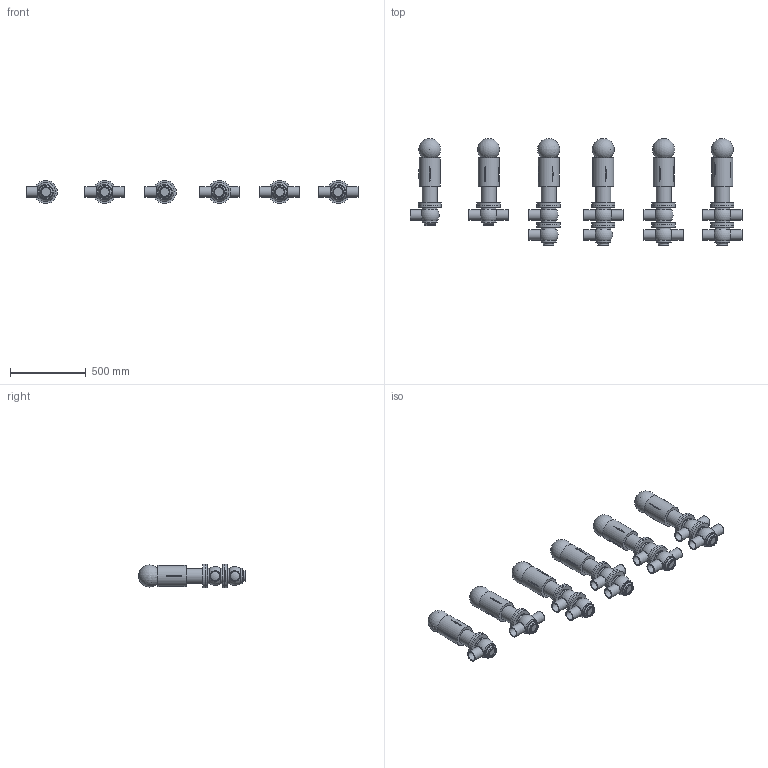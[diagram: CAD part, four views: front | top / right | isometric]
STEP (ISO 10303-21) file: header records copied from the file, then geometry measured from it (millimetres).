
FILE_DESCRIPTION(/* description */ (''),/* implementation_level */ '2;1');
FILE_NAME(/* name */ 'C:\Users\marz-m\Desktop\PDF\BBZQ 3D STEP\BBZQ-DN65-CIL.134.stp',/* time_stamp */ '2018-04-13T15:19:16+02:00',/* author */ ('marz-m'),/* organization */ (''),/* preprocessor_version */ 'ST-DEVELOPER v17',/* originating_system */ 'Autodesk Inventor 2018',/* authorisation */ '');
FILE_SCHEMA (('AUTOMOTIVE_DESIGN { 1 0 10303 214 3 1 1 }'));
Length unit declared in the file: millimetre
Products named in the file (8): BBZQ-DN65-CIL.134; ASSEMBLAGGIO-DN65-CIL108--156; CIL134; SAGOMA-GIOTTO-; COR-INF-L-BBZQ-DN065-SALD; COR-SUP-L-BBZQ-DN065-SALD; COR-SUP-T-BBZQ-DN65; COR-INF-T-BBZQ-DN065-SALD
Assembly tree (28 placements, depth 2):
  BBZQ-DN65-CIL.134
    ASSEMBLAGGIO-DN65-CIL108--156  x6
    COR-INF-L-BBZQ-DN065-SALD  x3
    COR-INF-T-BBZQ-DN065-SALD  x3
    COR-SUP-L-BBZQ-DN065-SALD  x2
    COR-SUP-T-BBZQ-DN65  x2
    CIL134  x6
    SAGOMA-GIOTTO-  x6
Bounding box: 2186.25 x 703.97 x 154 mm (x, y, z)
Volume: 45294456.1 mm3; surface area: 3158856.6 mm2
Topology: 28 solids, 28 shells, 458 faces, 1168 edges, 828 vertices
Faces by surface type: plane 163, cylinder 118, torus 86, cone 60, sphere 31
Full cylindrical faces by diameter (mm): 20 x12, 60 x21, 70 x21, 76 x6, 77 x6, 99 x12, 100 x6, 101 x8, 139 x6, 154 x20
Entity records: 4368 total; most frequent: CARTESIAN_POINT 933, DIRECTION 764, ORIENTED_EDGE 580, AXIS2_PLACEMENT_3D 361, EDGE_CURVE 290, VERTEX_POINT 210, CIRCLE 196, EDGE_LOOP 152
